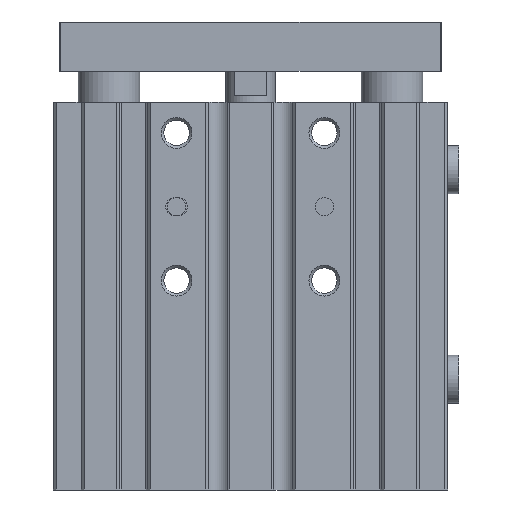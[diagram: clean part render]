
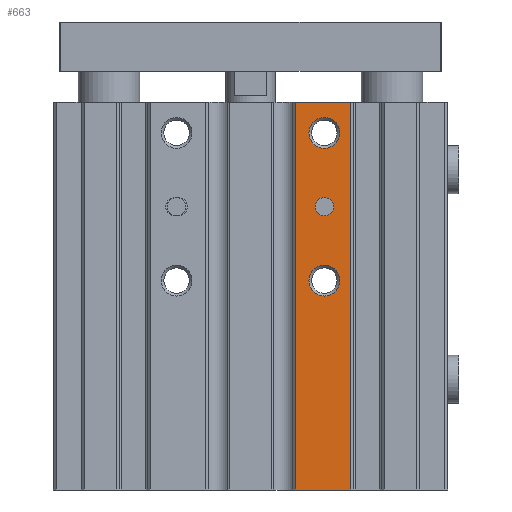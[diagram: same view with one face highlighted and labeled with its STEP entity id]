
A CAD part, left-side view. The second image highlights one B-rep face of the part: STEP entity #663.
In plain terms, the highlighted planar face has unit normal (-1, 0, 0).
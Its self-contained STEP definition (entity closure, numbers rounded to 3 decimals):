
#663 = ADVANCED_FACE( '', ( #1571, #1572, #1573, #1574 ), #1575, .T. );
#1571 = FACE_BOUND( '', #2769, .T. );
#1572 = FACE_BOUND( '', #2770, .T. );
#1573 = FACE_BOUND( '', #2771, .T. );
#1574 = FACE_OUTER_BOUND( '', #2772, .T. );
#1575 = PLANE( '', #2773 );
#2769 = EDGE_LOOP( '', ( #4708 ) );
#2770 = EDGE_LOOP( '', ( #4709 ) );
#2771 = EDGE_LOOP( '', ( #4710 ) );
#2772 = EDGE_LOOP( '', ( #4711, #4712, #4713, #4714 ) );
#2773 = AXIS2_PLACEMENT_3D( '', #4715, #4716, #4717 );
#4708 = ORIENTED_EDGE( '', *, *, #7010, .T. );
#4709 = ORIENTED_EDGE( '', *, *, #7192, .T. );
#4710 = ORIENTED_EDGE( '', *, *, #7193, .T. );
#4711 = ORIENTED_EDGE( '', *, *, #7171, .F. );
#4712 = ORIENTED_EDGE( '', *, *, #6862, .F. );
#4713 = ORIENTED_EDGE( '', *, *, #6745, .T. );
#4714 = ORIENTED_EDGE( '', *, *, #6821, .T. );
#4715 = CARTESIAN_POINT( '', ( -15., -7.25, -63. ) );
#4716 = DIRECTION( '', ( -1., 0., 0. ) );
#4717 = DIRECTION( '', ( 0., 0., 1. ) );
#6745 = EDGE_CURVE( '', #8041, #8039, #8042, .T. );
#6821 = EDGE_CURVE( '', #8039, #8181, #8184, .T. );
#6862 = EDGE_CURVE( '', #8041, #8248, #8250, .T. );
#7010 = EDGE_CURVE( '', #8474, #8474, #8475, .T. );
#7171 = EDGE_CURVE( '', #8248, #8181, #8725, .T. );
#7192 = EDGE_CURVE( '', #8758, #8758, #8759, .T. );
#7193 = EDGE_CURVE( '', #8760, #8760, #8761, .T. );
#8039 = VERTEX_POINT( '', #9875 );
#8041 = VERTEX_POINT( '', #9878 );
#8042 = LINE( '', #9879, #9880 );
#8181 = VERTEX_POINT( '', #10061 );
#8184 = LINE( '', #10065, #10066 );
#8248 = VERTEX_POINT( '', #10161 );
#8250 = LINE( '', #10164, #10165 );
#8474 = VERTEX_POINT( '', #10499 );
#8475 = CIRCLE( '', #10500, 1.5 );
#8725 = LINE( '', #10847, #10848 );
#8758 = VERTEX_POINT( '', #10893 );
#8759 = CIRCLE( '', #10894, 2.5 );
#8760 = VERTEX_POINT( '', #10895 );
#8761 = CIRCLE( '', #10896, 2.5 );
#9875 = CARTESIAN_POINT( '', ( -15., -16.3, -63. ) );
#9878 = CARTESIAN_POINT( '', ( -15., -7.25, -63. ) );
#9879 = CARTESIAN_POINT( '', ( -15., -7.25, -63. ) );
#9880 = VECTOR( '', #12004, 1000. );
#10061 = CARTESIAN_POINT( '', ( -15., -16.3, 0. ) );
#10065 = CARTESIAN_POINT( '', ( -15., -16.3, -63. ) );
#10066 = VECTOR( '', #12141, 1000. );
#10161 = CARTESIAN_POINT( '', ( -15., -7.25, 0. ) );
#10164 = CARTESIAN_POINT( '', ( -15., -7.25, -63. ) );
#10165 = VECTOR( '', #12180, 1000. );
#10499 = CARTESIAN_POINT( '', ( -15., -12., -18.5 ) );
#10500 = AXIS2_PLACEMENT_3D( '', #12355, #12356, #12357 );
#10847 = CARTESIAN_POINT( '', ( -15., -7.25, 0. ) );
#10848 = VECTOR( '', #12600, 1000. );
#10893 = CARTESIAN_POINT( '', ( -15., -12., -7.5 ) );
#10894 = AXIS2_PLACEMENT_3D( '', #12634, #12635, #12636 );
#10895 = CARTESIAN_POINT( '', ( -15., -12., -31.5 ) );
#10896 = AXIS2_PLACEMENT_3D( '', #12637, #12638, #12639 );
#12004 = DIRECTION( '', ( 0., -1., 0. ) );
#12141 = DIRECTION( '', ( 0., 0., 1. ) );
#12180 = DIRECTION( '', ( 0., 0., 1. ) );
#12355 = CARTESIAN_POINT( '', ( -15., -12., -17. ) );
#12356 = DIRECTION( '', ( 1., 0., 0. ) );
#12357 = DIRECTION( '', ( 0., 0., -1. ) );
#12600 = DIRECTION( '', ( 0., -1., 0. ) );
#12634 = CARTESIAN_POINT( '', ( -15., -12., -5. ) );
#12635 = DIRECTION( '', ( 1., 0., 0. ) );
#12636 = DIRECTION( '', ( 0., 0., -1. ) );
#12637 = CARTESIAN_POINT( '', ( -15., -12., -29. ) );
#12638 = DIRECTION( '', ( 1., 0., 0. ) );
#12639 = DIRECTION( '', ( 0., 0., -1. ) );
